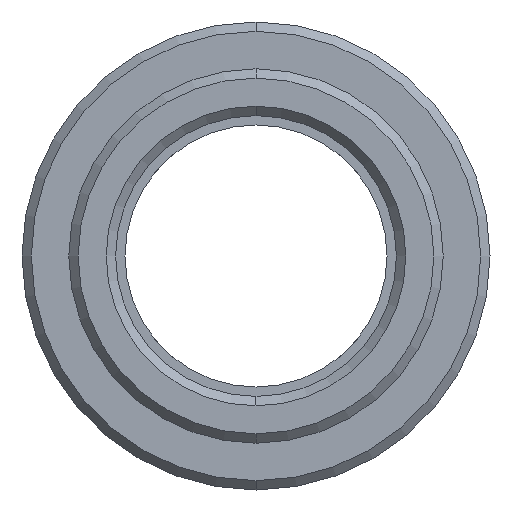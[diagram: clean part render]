
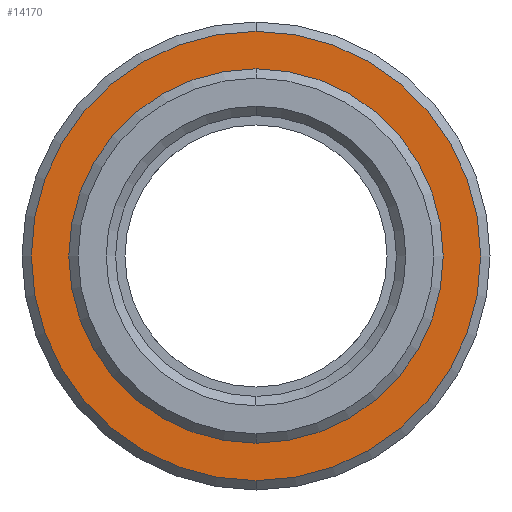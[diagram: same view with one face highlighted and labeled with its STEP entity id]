
A CAD part, left-side view. The second image highlights one B-rep face of the part: STEP entity #14170.
In plain terms, the highlighted planar face has unit normal (-1, 0, 0).
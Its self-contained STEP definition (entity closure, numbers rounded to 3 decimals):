
#5584=CARTESIAN_POINT('',(0.,0.,0.));
#5585=DIRECTION('',(1.,0.,0.));
#5586=DIRECTION('',(0.,0.,1.));
#5587=AXIS2_PLACEMENT_3D('',#5584,#5585,#5586);
#5589=CARTESIAN_POINT('',(0.,0.,0.));
#5590=DIRECTION('',(-1.,0.,0.));
#5591=DIRECTION('',(0.,0.,1.));
#5592=AXIS2_PLACEMENT_3D('',#5589,#5590,#5591);
#5594=CARTESIAN_POINT('',(0.,0.,0.));
#5595=DIRECTION('',(1.,0.,0.));
#5596=DIRECTION('',(0.,0.,-1.));
#5597=AXIS2_PLACEMENT_3D('',#5594,#5595,#5596);
#5599=CARTESIAN_POINT('',(0.,0.,
0.));
#5600=DIRECTION('',(1.,0.,0.));
#5601=DIRECTION('',(0.,0.,1.));
#5602=AXIS2_PLACEMENT_3D('',#5599,#5600,#5601);
#11354=CARTESIAN_POINT('',(0.,0.,-12.));
#11355=CARTESIAN_POINT('',(0.,0.,12.));
#11356=VERTEX_POINT('',#11354);
#11357=VERTEX_POINT('',#11355);
#11670=CARTESIAN_POINT('',(0.,0.,10.));
#11671=CARTESIAN_POINT('',(0.,0.,-10.));
#11672=VERTEX_POINT('',#11670);
#11673=VERTEX_POINT('',#11671);
#14155=CARTESIAN_POINT('',(0.,0.,0.));
#14156=DIRECTION('',(1.,0.,0.));
#14157=DIRECTION('',(0.,0.,1.));
#14158=AXIS2_PLACEMENT_3D('',#14155,#14156,#14157);
#14159=PLANE('',#14158);
#14161=ORIENTED_EDGE('',*,*,#14160,.T.);
#14163=ORIENTED_EDGE('',*,*,#14162,.T.);
#14164=EDGE_LOOP('',(#14161,#14163));
#14165=FACE_OUTER_BOUND('',#14164,.F.);
#14166=ORIENTED_EDGE('',*,*,#14122,.F.);
#14167=ORIENTED_EDGE('',*,*,#14137,.T.);
#14168=EDGE_LOOP('',(#14166,#14167));
#14169=FACE_BOUND('',#14168,.F.);
#14170=ADVANCED_FACE('',(#14165,#14169),#14159,.F.);
#5588=CIRCLE('',#5587,10.);
#5593=CIRCLE('',#5592,10.);
#5598=CIRCLE('',#5597,12.);
#5603=CIRCLE('',#5602,12.);
#14122=EDGE_CURVE('',#11672,#11673,#5588,.T.);
#14137=EDGE_CURVE('',#11672,#11673,#5593,.T.);
#14160=EDGE_CURVE('',#11356,#11357,#5598,.T.);
#14162=EDGE_CURVE('',#11357,#11356,#5603,.T.);
